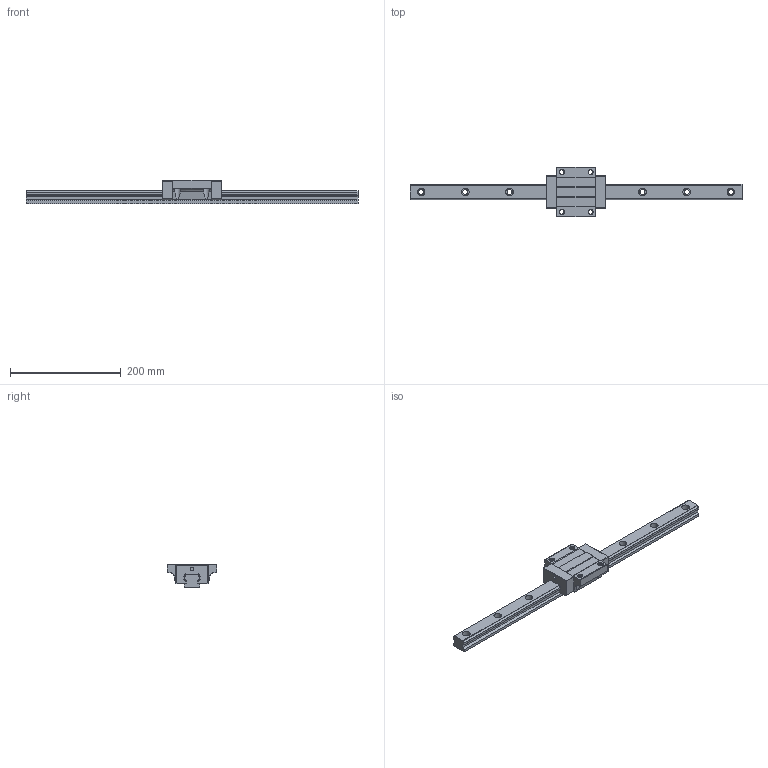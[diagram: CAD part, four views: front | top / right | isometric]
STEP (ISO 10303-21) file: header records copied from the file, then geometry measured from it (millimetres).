
FILE_DESCRIPTION (( 'STEP AP203' ), '1' );
FILE_NAME ('TRH30FN-WW-§ï.STEP', '2023-08-30T02:00:38', ( '' ), ( '' ), 'SwSTEP 2.0', 'SolidWorks 2022', '' );
FILE_SCHEMA (( 'CONFIG_CONTROL_DESIGN' ));
Length unit declared in the file: millimetre
Products named in the file (1): TRH30FN-WW-改
Bounding box: 600 x 90 x 42 mm (x, y, z)
Volume: 524410.7 mm3; surface area: 102581.1 mm2
Topology: 1 solids, 1 shells, 386 faces, 1106 edges, 724 vertices
Faces by surface type: cylinder 280, plane 94, bspline 8, sphere 4
Entity records: 19827 total; most frequent: CARTESIAN_POINT 10195, ORIENTED_EDGE 2204, DIRECTION 1710, EDGE_CURVE 1102, VERTEX_POINT 724, AXIS2_PLACEMENT_3D 603, LINE 504, VECTOR 504
